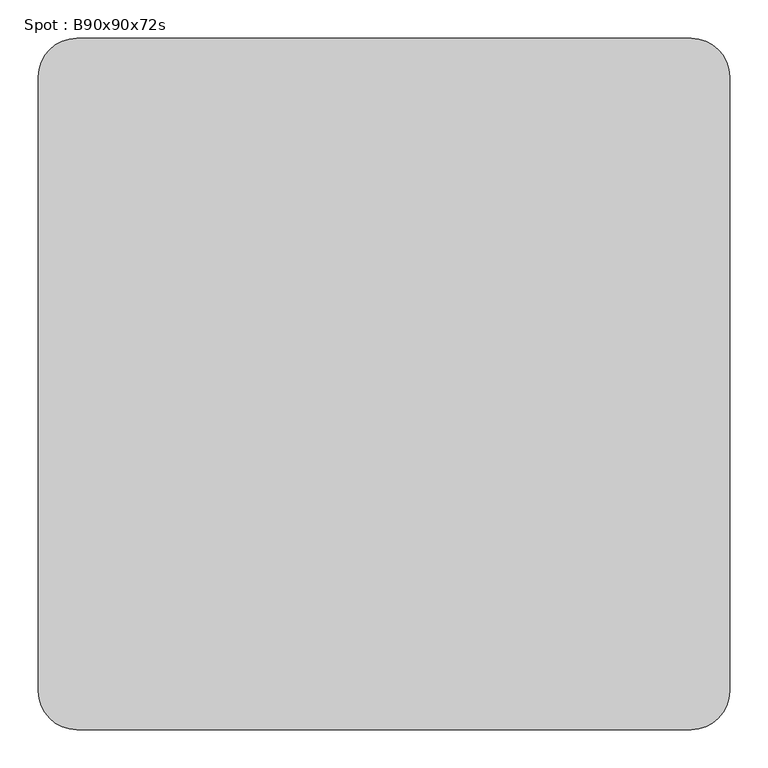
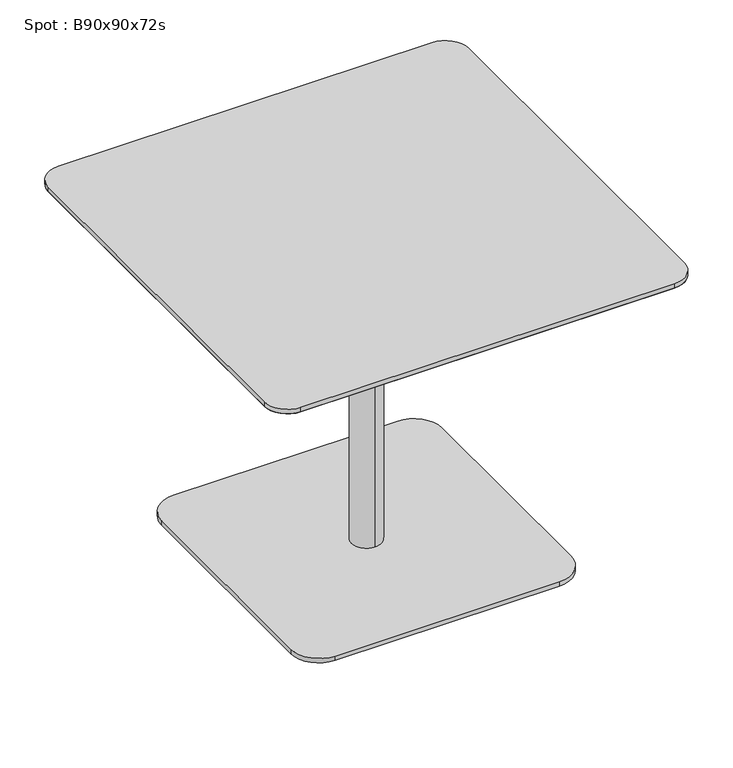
"""IFC4 building model written with IfcOpenShell, lengths in millimetres: furniture geometry, Spot : B90x90x72s."""

from ifc_helpers import new_model, si_unit, point, frame, frame_2d, origin, origin_with_axes, place, context, project, spatial, polyline, circle_curve, trimmed, segment, composite_curve, outline, extrude, source, transform, mapped, element, save
from ifc_brep_helpers import plane_surface, cylinder_surface, revolved_surface, advanced_brep


def spot_b90x90x72s_1211a02d(model_context):
    return source(origin(), model_context, "Body", "SolidModel", [
        advanced_brep(
        [(-400.0, -400.0, 698.0), (-400.0, 400.0, 698.0), (400.0, 400.0, 698.0), (400.0, -400.0, 698.0), (-450.0, -400.0, 710.0), (-400.0, -450.0, 710.0), (400.0, -450.0, 710.0), (450.0, -400.0, 710.0), (450.0, 400.0, 710.0), (400.0, 450.0, 710.0), (-400.0, 450.0, 710.0), (-450.0, 400.0, 710.0)],
        [
            (0, 1),
            (1, 2),
            (2, 3),
            (3, 0),
            (4, 5, circle_curve(frame((-400.0, -400.0, 710.0), z_axis=(0.0, 0.0, 1.0), x_axis=(0.0, -1.0, 0.0)), 50.0)),
            (5, 6),
            (6, 7, circle_curve(frame((400.0, -400.0, 710.0), z_axis=(0.0, 0.0, 1.0), x_axis=(1.0, 0.0, 0.0)), 50.0)),
            (7, 8),
            (8, 9, circle_curve(frame((400.0, 400.0, 710.0), z_axis=(0.0, 0.0, 1.0), x_axis=(0.0, 1.0, 0.0)), 50.0)),
            (9, 10),
            (10, 11, circle_curve(frame((-400.0, 400.0, 710.0), z_axis=(0.0, 0.0, 1.0), x_axis=(-1.0, 0.0, 0.0)), 50.0)),
            (11, 4),
            (4, 0),
            (0, 5),
            (3, 6),
            (3, 7),
            (2, 8),
            (2, 9),
            (1, 10),
            (1, 11),
        ],
        [
            plane_surface(frame((0.0, 0.0, 698.0), z_axis=(0.0, 0.0, -1.0), x_axis=(-1.0, 0.0, 0.0))),
            plane_surface(frame((0.0, 0.0, 710.0), z_axis=(0.0, 0.0, 1.0), x_axis=(-1.0, 0.0, 0.0))),
            revolved_surface(polyline([(-400.0, -400.0, 698.0), (-400.0, -450.0, 710.0)]), (-400.0, -400.0, 698.0), (0.0, 0.0, 1.0)),
            plane_surface(frame((0.0, -450.0, 710.0), z_axis=(0.0, -0.23337295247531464, -0.9723873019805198), x_axis=(-1.0, 0.0, 0.0))),
            revolved_surface(polyline([(400.0, -400.0, 698.0), (450.0, -400.0, 710.0)]), (400.0, -400.0, 698.0), (0.0, 0.0, 1.0)),
            plane_surface(frame((450.0, 0.0, 710.0), z_axis=(0.23337295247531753, 0.0, -0.9723873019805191), x_axis=(0.0, -1.0, 0.0))),
            revolved_surface(polyline([(400.0, 400.0, 698.0), (400.0, 450.0, 710.0)]), (400.0, 400.0, 698.0), (0.0, 0.0, 1.0)),
            plane_surface(frame((0.0, 450.0, 710.0), z_axis=(0.0, 0.2333729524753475, -0.9723873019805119), x_axis=(1.0, 0.0, 0.0))),
            revolved_surface(polyline([(-400.0, 400.0, 698.0), (-450.0, 400.0, 710.0)]), (-400.0, 400.0, 698.0), (0.0, 0.0, 1.0)),
            plane_surface(frame((-450.0, 0.0, 710.0), z_axis=(-0.2333729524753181, 0.0, -0.9723873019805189), x_axis=(0.0, 1.0, 0.0))),
        ],
        [
            (0, [[1, 2, 3, 4]]),
            (1, [[5, 6, 7, 8, 9, 10, 11, 12]]),
            (2, [[-5, 13, 14]]),
            (3, [[-6, -14, -4, 15]]),
            (4, [[-7, -15, 16]]),
            (5, [[-8, -16, -3, 17]]),
            (6, [[-9, -17, 18]]),
            (7, [[-10, -18, -2, 19]]),
            (8, [[-11, -19, 20]]),
            (9, [[-12, -20, -1, -13]]),
        ],
    ),
        extrude(outline(composite_curve([segment(trimmed(circle_curve(frame_2d((400.0, 400.0)), 50.0), [point((400.0, 450.0))], [point((450.0, 400.0))], False, "CARTESIAN"), True, "CONTINUOUS"), segment(polyline([(450.0, 400.0), (450.0, -400.0)]), True, "CONTINUOUS"), segment(trimmed(circle_curve(frame_2d((400.0, -400.0)), 50.0), [point((450.0, -400.0))], [point((400.0, -450.0))], False, "CARTESIAN"), True, "CONTINUOUS"), segment(polyline([(400.0, -450.0), (-400.0, -450.0)]), True, "CONTINUOUS"), segment(trimmed(circle_curve(frame_2d((-400.0, -400.0)), 50.0), [point((-400.0, -450.0))], [point((-450.0, -400.0))], False, "CARTESIAN"), True, "CONTINUOUS"), segment(polyline([(-450.0, -400.0), (-450.0, 400.0)]), True, "CONTINUOUS"), segment(trimmed(circle_curve(frame_2d((-400.0, 400.0)), 50.0), [point((-450.0, 400.0))], [point((-400.0, 450.0))], False, "CARTESIAN"), True, "CONTINUOUS"), segment(polyline([(-400.0, 450.0), (400.0, 450.0)]), True, "CONTINUOUS")], self_intersect=False)), frame((0.0, 0.0, 710.0), z_axis=(0.0, 0.0, 1.0), x_axis=(1.0, 0.0, 0.0)), (0.0, 0.0, 1.0), 10.0),
        extrude(outline(composite_curve([segment(trimmed(circle_curve(frame_2d((240.0, 240.0)), 60.0), [point((240.0, 300.0))], [point((300.0, 240.0))], False, "CARTESIAN"), True, "CONTINUOUS"), segment(polyline([(300.0, 240.0), (300.0, -240.0)]), True, "CONTINUOUS"), segment(trimmed(circle_curve(frame_2d((240.0, -240.0)), 60.0), [point((300.0, -240.0))], [point((240.0, -300.0))], False, "CARTESIAN"), True, "CONTINUOUS"), segment(polyline([(240.0, -300.0), (-240.0, -300.0)]), True, "CONTINUOUS"), segment(trimmed(circle_curve(frame_2d((-240.0, -240.0)), 60.0), [point((-240.0, -300.0))], [point((-300.0, -240.0))], False, "CARTESIAN"), True, "CONTINUOUS"), segment(polyline([(-300.0, -240.0), (-300.0, 240.0)]), True, "CONTINUOUS"), segment(trimmed(circle_curve(frame_2d((-240.0, 240.0)), 60.0), [point((-300.0, 240.0))], [point((-240.0, 300.0))], False, "CARTESIAN"), True, "CONTINUOUS"), segment(polyline([(-240.0, 300.0), (240.0, 300.0)]), True, "CONTINUOUS")], self_intersect=False)), origin_with_axes(), (0.0, 0.0, 1.0), 10.0),
        advanced_brep(
        [(0.0, 32.0, 10.0), (0.0, -32.0, 10.0), (0.0, -32.0, 667.406916), (0.0, 32.0, 667.406916), (0.0, 0.0, 10.0), (0.0, 150.0, 698.0), (0.0, -150.0, 698.0), (0.0, 0.0, 698.0), (0.0, 150.0, 686.7213673), (0.0, -150.0, 686.7213673)],
        [
            (0, 1, circle_curve(frame((0.0, 0.0, 10.0), z_axis=(0.0, 0.0, 1.0), x_axis=(0.0, -1.0, 0.0)), 32.0)),
            (1, 2),
            (2, 3, circle_curve(frame((0.0, 0.0, 667.406916), z_axis=(0.0, 0.0, -1.0), x_axis=(0.0, -1.0, 0.0)), 32.0)),
            (3, 0),
            (1, 0, circle_curve(frame((0.0, 0.0, 10.0), z_axis=(0.0, 0.0, 1.0), x_axis=(0.0, -1.0, 0.0)), 32.0)),
            (3, 2, circle_curve(frame((0.0, 0.0, 667.406916), z_axis=(0.0, 0.0, -1.0), x_axis=(0.0, -1.0, 0.0)), 32.0)),
            (4, 1),
            (0, 4),
            (5, 6, circle_curve(frame((0.0, 0.0, 698.0), z_axis=(0.0, 0.0, 1.0), x_axis=(0.0, -1.0, 0.0)), 150.0)),
            (6, 7),
            (7, 5),
            (6, 5, circle_curve(frame((0.0, 0.0, 698.0), z_axis=(0.0, 0.0, 1.0), x_axis=(0.0, -1.0, 0.0)), 150.0)),
            (8, 9, circle_curve(frame((0.0, 0.0, 686.7213673), z_axis=(0.0, 0.0, 1.0), x_axis=(0.0, -1.0, 0.0)), 150.0)),
            (9, 6),
            (5, 8),
            (9, 8, circle_curve(frame((0.0, 0.0, 686.7213673), z_axis=(0.0, 0.0, 1.0), x_axis=(0.0, -1.0, 0.0)), 150.0)),
            (2, 9),
            (8, 3),
        ],
        [
            cylinder_surface(frame((0.0, 0.0, 1060.0), z_axis=(0.0, 0.0, -1.0), x_axis=(0.0, -1.0, 0.0)), 32.0),
            plane_surface(frame((0.0, 0.0, 10.0), z_axis=(0.0, 0.0, -1.0), x_axis=(0.0, -1.0, 0.0))),
            plane_surface(frame((0.0, 0.0, 698.0), z_axis=(0.0, 0.0, 1.0), x_axis=(0.0, -1.0, 0.0))),
            cylinder_surface(frame((0.0, 0.0, 1060.0), z_axis=(0.0, 0.0, -1.0), x_axis=(0.0, -1.0, 0.0)), 150.0),
            revolved_surface(polyline([(0.0, -150.0, 686.7213673), (0.0, -32.0, 667.406916)]), (0.0, 0.0, 1060.0), (0.0, 0.0, -1.0)),
        ],
        [
            (0, [[1, 2, 3, 4]]),
            (0, [[5, -4, 6, -2]]),
            (1, [[7, -1, 8]]),
            (1, [[-8, -5, -7]]),
            (2, [[9, 10, 11]]),
            (2, [[12, -11, -10]]),
            (3, [[13, 14, -9, 15]]),
            (3, [[16, -15, -12, -14]]),
            (4, [[-3, 17, -13, 18]]),
            (4, [[-6, -18, -16, -17]]),
        ],
    ),
        extrude(outline(polyline([(0.0, 0.0), (-20.0, 0.0), (-20.0, 20.0), (0.0, 20.0), (0.0, 0.0)])), origin_with_axes(), (0.0, 0.0, 1.0), 10.0),
    ])


if __name__ == "__main__":
    model = new_model("IFC4")
    model_context = context("Model", 3, world=origin())
    ifc_project = project(units=[si_unit("LENGTHUNIT", "METRE", prefix="MILLI")], contexts=[model_context])
    site = spatial("IfcSite", under=ifc_project)
    building = spatial("IfcBuilding", under=site)
    placement = place(None, origin())
    spot_b90x90x72s_shape = spot_b90x90x72s_1211a02d(model_context)
    element("IfcFurniture", 1, ObjectType="Spot : B90x90x72s", at=placement, inside=building, context=model_context, shape_type="MappedRepresentation", body=[
        mapped(spot_b90x90x72s_shape, transform((0.0, 0.0, 0.0), x_axis=(1.0, 0.0, 0.0), y_axis=(0.0, 1.0, 0.0), z_axis=(0.0, 0.0, 1.0))),
    ])
    save(model, "model.ifc")
